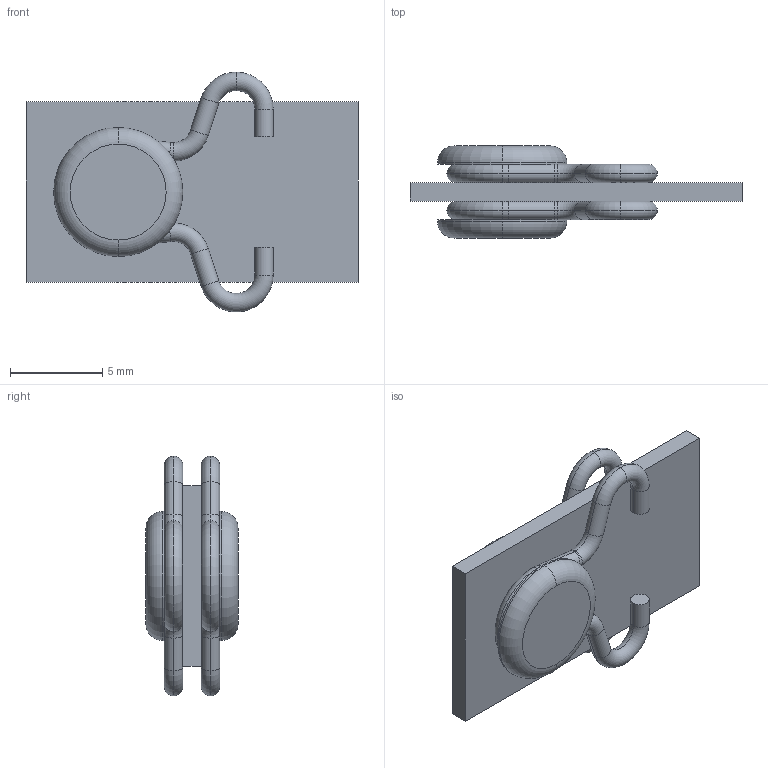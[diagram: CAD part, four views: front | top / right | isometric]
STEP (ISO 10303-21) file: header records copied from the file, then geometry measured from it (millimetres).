
FILE_DESCRIPTION (( 'STEP AP203' ), '1' );
FILE_NAME ('RLA-10x18.STEP', '2015-12-10T15:57:02', ( 'Balzi' ), ( '' ), 'SwSTEP 2.0', 'SolidWorks 2015', '' );
FILE_SCHEMA (( 'CONFIG_CONTROL_DESIGN' ));
Length unit declared in the file: millimetre
Products named in the file (1): RLA-10x18
Bounding box: 18 x 5 x 12.99 mm (x, y, z)
Volume: 285.7 mm3; surface area: 786.1 mm2
Topology: 5 solids, 5 shells, 84 faces, 162 edges, 88 vertices
Faces by surface type: torus 40, cylinder 30, plane 14
Entity records: 2199 total; most frequent: DIRECTION 452, CARTESIAN_POINT 335, ORIENTED_EDGE 324, AXIS2_PLACEMENT_3D 205, EDGE_CURVE 162, CIRCLE 120, VERTEX_POINT 88, EDGE_LOOP 86
